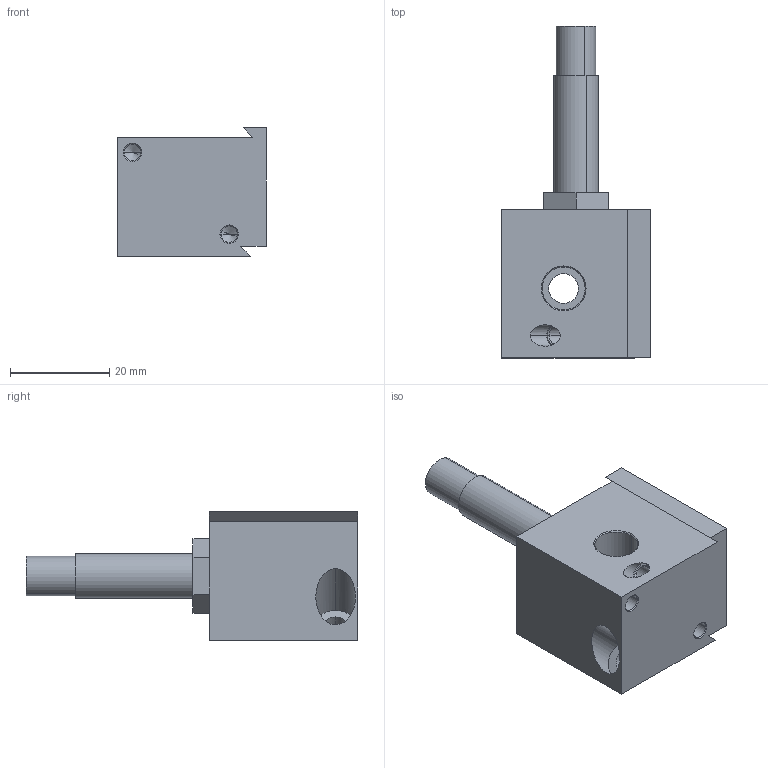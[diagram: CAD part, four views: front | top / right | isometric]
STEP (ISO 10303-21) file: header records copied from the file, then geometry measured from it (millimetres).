
FILE_DESCRIPTION (( 'STEP AP203' ), '1' );
FILE_NAME ('BE1.STEP', '2007-07-27T13:27:01', ( 'Vesta Automation srl' ), ( 'Vesta Automation srl' ), 'SwSTEP 2.0', 'SolidWorks 2006104', '' );
FILE_SCHEMA (( 'CONFIG_CONTROL_DESIGN' ));
Length unit declared in the file: millimetre
Products named in the file (1): BE1
Bounding box: 30 x 67 x 26 mm (x, y, z)
Volume: 21189.7 mm3; surface area: 7567.2 mm2
Topology: 1 solids, 1 shells, 78 faces, 178 edges, 108 vertices
Faces by surface type: cylinder 30, plane 26, cone 22
Entity records: 2221 total; most frequent: DIRECTION 392, CARTESIAN_POINT 375, ORIENTED_EDGE 340, EDGE_CURVE 170, AXIS2_PLACEMENT_3D 149, VERTEX_POINT 108, EDGE_LOOP 96, VECTOR 94
